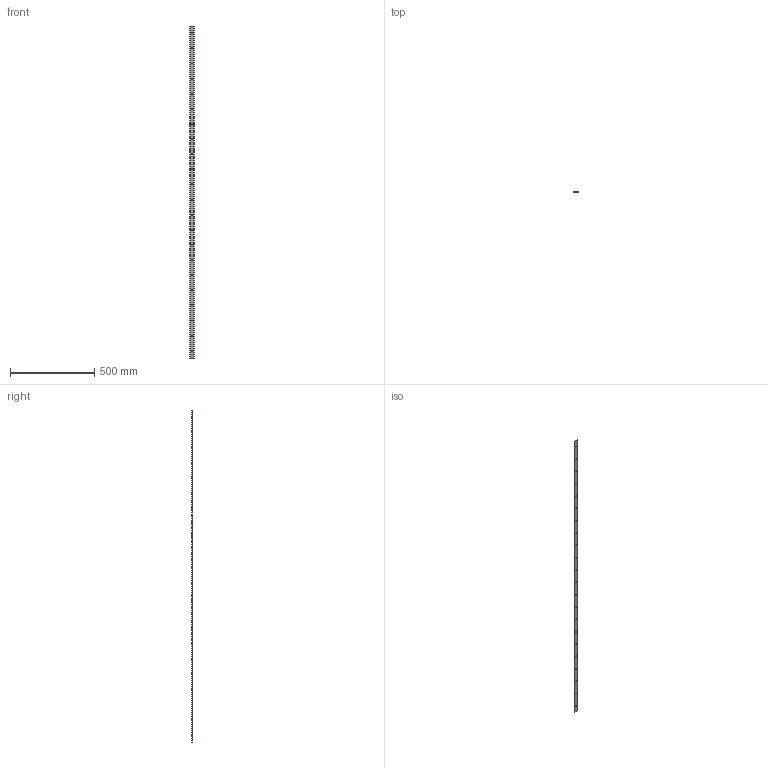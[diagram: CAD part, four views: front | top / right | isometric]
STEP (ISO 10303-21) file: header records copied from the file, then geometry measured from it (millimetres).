
FILE_DESCRIPTION(('STEP AP203'),'1');
FILE_NAME('slide_v28l1976p1.stp','2022-07-01T05:56:04',('TraceParts'),('TraceParts S.A.'),'Spatial InterOp 3D',' ',' ');
FILE_SCHEMA(('CONFIG_CONTROL_DESIGN'));
Length unit declared in the file: millimetre
Products named in the file (1): 1
Bounding box: 27.24 x 4.27 x 1976 mm (x, y, z)
Volume: 210345.1 mm3; surface area: 115419.4 mm2
Topology: 1 solids, 1 shells, 56 faces, 162 edges, 108 vertices
Faces by surface type: cylinder 48, plane 8
Entity records: 2034 total; most frequent: DIRECTION 372, CARTESIAN_POINT 327, ORIENTED_EDGE 324, EDGE_CURVE 162, AXIS2_PLACEMENT_3D 153, VERTEX_POINT 108, EDGE_LOOP 100, CIRCLE 96
